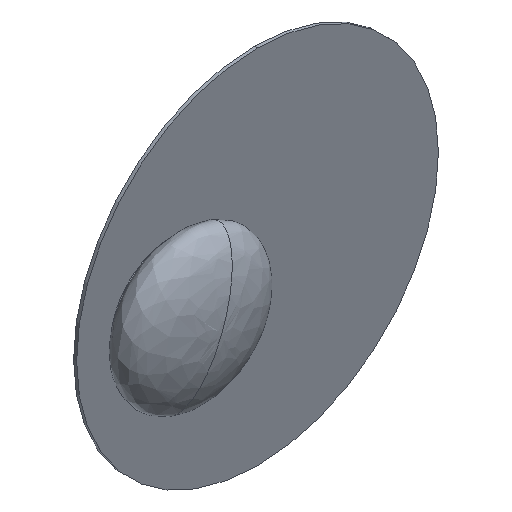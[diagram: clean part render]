
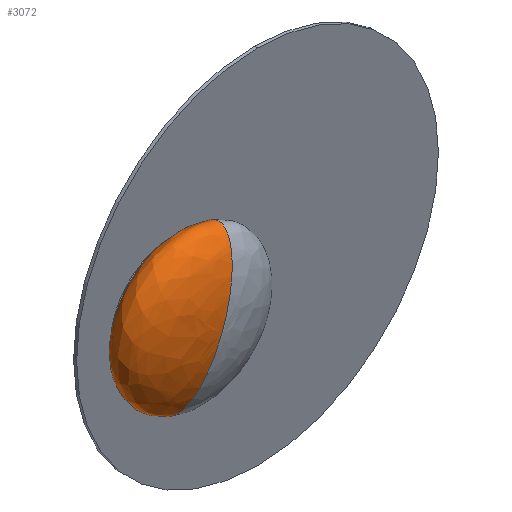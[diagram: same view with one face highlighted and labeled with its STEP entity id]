
A CAD part, isometric view. The second image highlights one B-rep face of the part: STEP entity #3072.
In plain terms, the highlighted free-form (B-spline) face has degree [3, 3] with [4, 4] control points.
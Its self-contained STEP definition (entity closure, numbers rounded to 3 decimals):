
#77 = ORIENTED_EDGE ( 'NONE', *, *, #3834, .F. ) ;
#158 = CARTESIAN_POINT ( 'NONE',  ( -60.259, -1.342, 0. ) ) ;
#180 = CARTESIAN_POINT ( 'NONE',  ( 70.525, -50., 0. ) ) ;
#411 = EDGE_CURVE ( 'NONE', #2049, #7957, #3997, .T. ) ;
#510 = CARTESIAN_POINT ( 'NONE',  ( 60.259, -1.342, 0. ) ) ;
#776 = CARTESIAN_POINT ( 'NONE',  ( -102.247, -24.385, 0. ) ) ;
#871 = FACE_OUTER_BOUND ( 'NONE', #8130, .T. ) ;
#967 = ORIENTED_EDGE ( 'NONE', *, *, #411, .F. ) ;
#1196 =( BOUNDED_SURFACE ( )  B_SPLINE_SURFACE ( 3, 3, ( 
 ( #3021, #3910, #2239, #5211 ),
 ( #6912, #5999, #2344, #776 ),
 ( #180, #7636, #3174, #1553 ),
 ( #9115, #3853, #5323, #2394 ) ),
 .UNSPECIFIED., .F., .F., .F. ) 
 B_SPLINE_SURFACE_WITH_KNOTS ( ( 4, 4 ),
 ( 4, 4 ),
 ( 0., 1. ),
 ( 0., 1. ),
 .UNSPECIFIED. ) 
 GEOMETRIC_REPRESENTATION_ITEM ( )  RATIONAL_B_SPLINE_SURFACE ( (
 ( 1., 0.333, 0.333, 1.),
 ( 0.633, 0.211, 0.211, 0.633),
 ( 0.633, 0.211, 0.211, 0.633),
 ( 1., 0.333, 0.333, 1.) ) ) 
 REPRESENTATION_ITEM ( '' )  SURFACE ( )  );
#1553 = CARTESIAN_POINT ( 'NONE',  ( -70.525, -50., 0. ) ) ;
#2049 = VERTEX_POINT ( 'NONE', #510 ) ;
#2239 = CARTESIAN_POINT ( 'NONE',  ( -60.259, -1.342, -120.519 ) ) ;
#2344 = CARTESIAN_POINT ( 'NONE',  ( -102.247, -24.385, -204.494 ) ) ;
#2394 = CARTESIAN_POINT ( 'NONE',  ( 0., -50., 0. ) ) ;
#2434 = DIRECTION ( 'NONE',  ( -1., 0., 0. ) ) ;
#2977 = CARTESIAN_POINT ( 'NONE',  ( -102.247, -24.385, 0. ) ) ;
#3021 = CARTESIAN_POINT ( 'NONE',  ( 60.259, -1.342, 0. ) ) ;
#3072 = ADVANCED_FACE ( 'NONE', ( #871 ), #1196, .T. ) ;
#3174 = CARTESIAN_POINT ( 'NONE',  ( -70.525, -50., -141.05 ) ) ;
#3293 = CARTESIAN_POINT ( 'NONE',  ( 60.259, -1.342, 0. ) ) ;
#3375 = CARTESIAN_POINT ( 'NONE',  ( 0., -50., 0. ) ) ;
#3653 =( BOUNDED_CURVE ( )  B_SPLINE_CURVE ( 3, ( #8337, #2977, #5953, #9067 ),
 .UNSPECIFIED., .F., .F. ) 
 B_SPLINE_CURVE_WITH_KNOTS ( ( 4, 4 ),
 ( 5.645, 7.854 ),
 .UNSPECIFIED. ) 
 CURVE ( )  GEOMETRIC_REPRESENTATION_ITEM ( )  RATIONAL_B_SPLINE_CURVE ( ( 1., 0.633, 0.633, 1. ) ) 
 REPRESENTATION_ITEM ( '' )  );
#3834 = EDGE_CURVE ( 'NONE', #7957, #8329, #3653, .T. ) ;
#3853 = CARTESIAN_POINT ( 'NONE',  ( 0., -50., 0. ) ) ;
#3910 = CARTESIAN_POINT ( 'NONE',  ( 60.259, -1.342, -120.519 ) ) ;
#3997 = CIRCLE ( 'NONE', #4772, 60.259 ) ;
#4206 =( BOUNDED_CURVE ( )  B_SPLINE_CURVE ( 3, ( #3293, #7152, #6273, #3375 ),
 .UNSPECIFIED., .F., .F. ) 
 B_SPLINE_CURVE_WITH_KNOTS ( ( 4, 4 ),
 ( 5.645, 7.854 ),
 .UNSPECIFIED. ) 
 CURVE ( )  GEOMETRIC_REPRESENTATION_ITEM ( )  RATIONAL_B_SPLINE_CURVE ( ( 1., 0.633, 0.633, 1. ) ) 
 REPRESENTATION_ITEM ( '' )  );
#4240 = ORIENTED_EDGE ( 'NONE', *, *, #8029, .T. ) ;
#4772 = AXIS2_PLACEMENT_3D ( 'NONE', #9156, #6151, #2434 ) ;
#5211 = CARTESIAN_POINT ( 'NONE',  ( -60.259, -1.342, 0. ) ) ;
#5323 = CARTESIAN_POINT ( 'NONE',  ( 0., -50., 0. ) ) ;
#5953 = CARTESIAN_POINT ( 'NONE',  ( -70.525, -50., 0. ) ) ;
#5999 = CARTESIAN_POINT ( 'NONE',  ( 102.247, -24.385, -204.494 ) ) ;
#6151 = DIRECTION ( 'NONE',  ( 0., 1., 0. ) ) ;
#6273 = CARTESIAN_POINT ( 'NONE',  ( 70.525, -50., 0. ) ) ;
#6762 = CARTESIAN_POINT ( 'NONE',  ( 0., -50., 0. ) ) ;
#6912 = CARTESIAN_POINT ( 'NONE',  ( 102.247, -24.385, 0. ) ) ;
#7152 = CARTESIAN_POINT ( 'NONE',  ( 102.247, -24.385, 0. ) ) ;
#7636 = CARTESIAN_POINT ( 'NONE',  ( 70.525, -50., -141.05 ) ) ;
#7957 = VERTEX_POINT ( 'NONE', #158 ) ;
#8029 = EDGE_CURVE ( 'NONE', #2049, #8329, #4206, .T. ) ;
#8130 = EDGE_LOOP ( 'NONE', ( #967, #4240, #77 ) ) ;
#8329 = VERTEX_POINT ( 'NONE', #6762 ) ;
#8337 = CARTESIAN_POINT ( 'NONE',  ( -60.259, -1.342, 0. ) ) ;
#9067 = CARTESIAN_POINT ( 'NONE',  ( 0., -50., 0. ) ) ;
#9115 = CARTESIAN_POINT ( 'NONE',  ( 0., -50., 0. ) ) ;
#9156 = CARTESIAN_POINT ( 'NONE',  ( 0., -1.342, 0. ) ) ;
